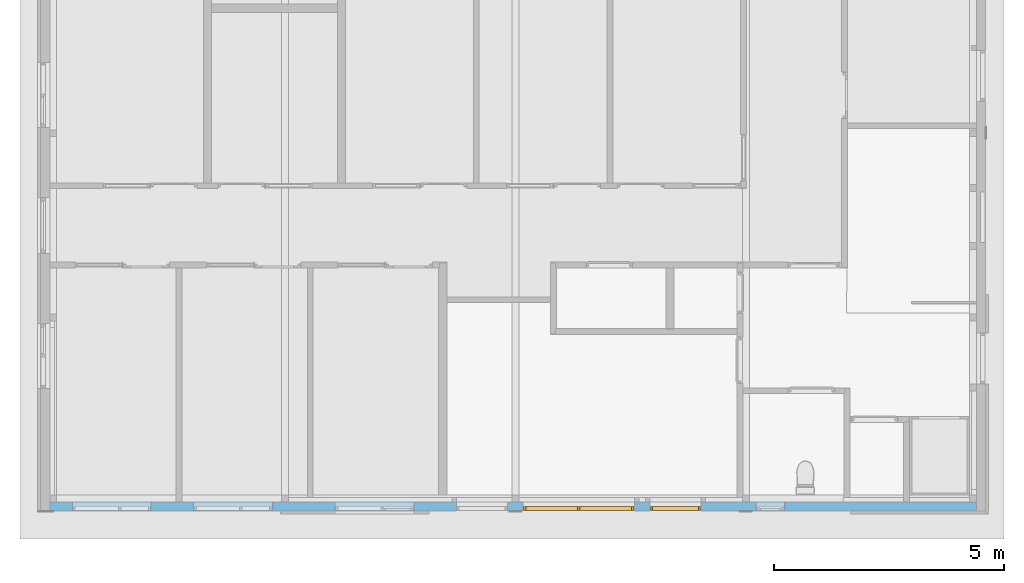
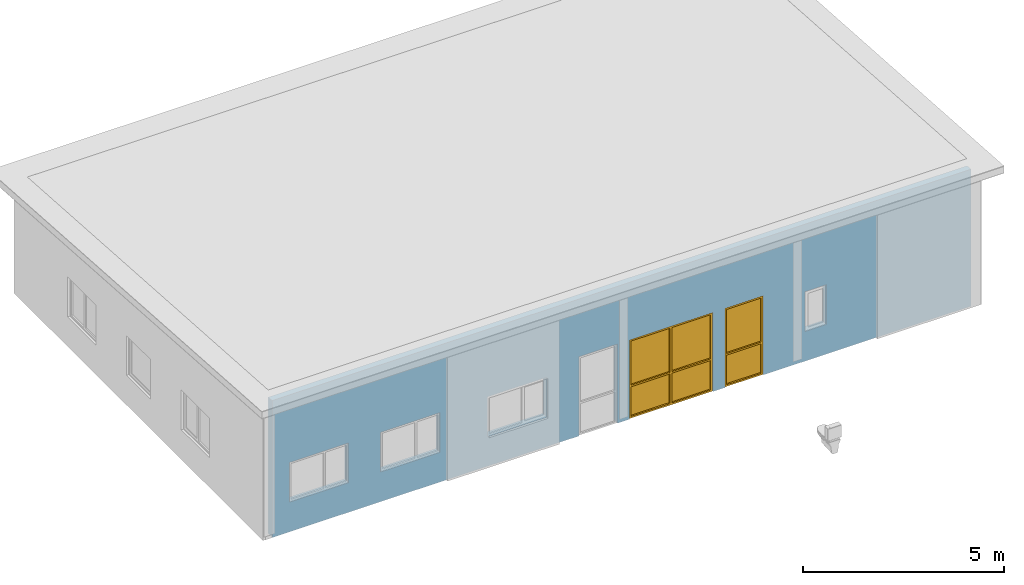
# One storey, part 13 of 37: 2 windows, 7 openings, plus 1 element that does not belong to this part.
"""IFC2X3 building model written with IfcOpenShell, lengths in millimetres."""

from ifc_helpers import new_model, entity, si_unit, converted_unit, frame, frame_2d, origin, origin_with_axes, place, context, subcontext, project, spatial, rectangle, extrude, clip, halfspace, faceted_brep, material, layer, layer_set, layer_usage, type_object, element, fill, save


model = new_model("IFC2X3")

# Units and contexts
model_context = context("Model", 3, precision=1e-05, world=origin())
plan_context = context("Plan", 3, precision=1e-05, world=origin())
body_context = subcontext(model_context, "Body", "Model", "MODEL_VIEW")
ifc_project = project(units=[si_unit("LENGTHUNIT", "METRE", prefix="MILLI"), converted_unit("PLANEANGLEUNIT", "DEGREE", entity("IfcPlaneAngleMeasure", 0.0174532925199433), si_unit("PLANEANGLEUNIT", "RADIAN"), dimensions=[0, 0, 0, 0, 0, 0, 0]), si_unit("AREAUNIT", "SQUARE_METRE"), si_unit("VOLUMEUNIT", "CUBIC_METRE")], contexts=[model_context, plan_context])

# Building, storey
building_placement = place(None, origin())
building = spatial("IfcBuilding", under=ifc_project, at=building_placement, Name="HEKF Administrasjonbygg", CompositionType="ELEMENT")
storey_placement = place(building_placement, frame((0.0, 0.0, 9900.0), z_axis=(0.0, 0.0, 1.0), x_axis=(1.0, 0.0, 0.0)))
storey = spatial("IfcBuildingStorey", under=building, at=storey_placement, Name="Plan 2", CompositionType="ELEMENT", Elevation=9900.0)

# Wall, openings, windows
ifc_material_1 = material(Name="Paroc 200")
ifc_layer = layer(ifc_material_1, 200.0)
ifc_layer_set = layer_set([ifc_layer])
ifc_layer_usage = layer_usage(ifc_layer_set, "AXIS2", "POSITIVE", 0.0)
wall_placement = place(storey_placement, frame((30000.0, -12000.0, 0.0), z_axis=(0.0, 0.0, 1.0), x_axis=(-1.0, 9.049698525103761e-17, 0.0)))
wall = element("IfcWallStandardCase", 1, at=wall_placement, inside=storey, material=ifc_layer_usage, context=body_context, shape_type="Clipping", body=[
    clip(extrude(rectangle(XDim=20100.00000000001, YDim=200.0, at=frame_2d((10050.0, 100.0), x_axis=(1.0, 0.0))), origin_with_axes(), (0.0, 0.0, 1.0), 4163.33333333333), halfspace(frame((0.0, 0.0, 4149.999999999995), z_axis=(9.405890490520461e-21, 0.06651901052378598, -0.9977851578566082), x_axis=(1.0, 0.0, 0.0)), True)),
])
opening_1_placement = place(wall_placement, frame((4165.0, 0.0, 900.0), z_axis=(0.0, 1.0, 0.0), x_axis=(0.0, 0.0, 1.0)))
element("IfcOpeningElement", 2, at=opening_1_placement, cuts=wall, Name="Window opening", ObjectType="Opening", context=body_context, shape_type="SweptSolid", body=[
    extrude(rectangle(XDim=1210.0, YDim=610.0, at=frame_2d((605.0, 305.0), x_axis=(1.0, 0.0))), origin_with_axes(), (0.0, 0.0, 1.0), 200.0),
])
opening_2_placement = place(wall_placement, frame((7420.0, 0.0, 0.0), z_axis=(0.0, 1.0, 0.0), x_axis=(0.0, 0.0, 1.0)))
opening_2 = element("IfcOpeningElement", 3, at=opening_2_placement, cuts=wall, Name="Window opening", ObjectType="Opening", context=body_context, shape_type="SweptSolid", body=[
    extrude(rectangle(XDim=2410.0, YDim=2410.0, at=frame_2d((1205.0, 1205.0), x_axis=(1.0, 0.0))), origin_with_axes(), (0.0, 0.0, 1.0), 200.0),
])
opening_3_placement = place(wall_placement, frame((5970.0, 0.0, 0.0), z_axis=(0.0, 1.0, 0.0), x_axis=(0.0, 0.0, 1.0)))
opening_3 = element("IfcOpeningElement", 4, at=opening_3_placement, cuts=wall, Name="Window opening", ObjectType="Opening", context=body_context, shape_type="SweptSolid", body=[
    extrude(rectangle(XDim=2410.0, YDim=1110.0, at=frame_2d((1205.0, 555.0), x_axis=(1.0, 0.0))), origin_with_axes(), (0.0, 0.0, 1.0), 200.0),
])
opening_4_placement = place(wall_placement, frame((10170.0, -1.818989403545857e-12, 0.0), z_axis=(0.0, 1.0, 0.0), x_axis=(0.0, 0.0, 1.0)))
element("IfcOpeningElement", 5, at=opening_4_placement, cuts=wall, Name="Window opening", ObjectType="Opening", context=body_context, shape_type="SweptSolid", body=[
    extrude(rectangle(XDim=2410.0, YDim=1110.0, at=frame_2d((1205.0, 555.0), x_axis=(1.0, 0.0))), origin_with_axes(), (0.0, 0.0, 1.0), 200.0),
])
opening_5_placement = place(wall_placement, frame((12200.0, -1.818989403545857e-12, 900.0), z_axis=(0.0, 1.0, 0.0), x_axis=(0.0, 0.0, 1.0)))
element("IfcOpeningElement", 6, at=opening_5_placement, cuts=wall, Name="Window opening", ObjectType="Opening", context=body_context, shape_type="SweptSolid", body=[
    extrude(rectangle(XDim=1210.0, YDim=1709.999999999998, at=frame_2d((605.0, 854.9999999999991), x_axis=(1.0, 0.0))), origin_with_axes(), (0.0, 0.0, 1.0), 200.0),
])
opening_6_placement = place(wall_placement, frame((15270.0, -1.818989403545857e-12, 900.0), z_axis=(0.0, 1.0, 0.0), x_axis=(0.0, 0.0, 1.0)))
element("IfcOpeningElement", 7, at=opening_6_placement, cuts=wall, Name="Window opening", ObjectType="Opening", context=body_context, shape_type="SweptSolid", body=[
    extrude(rectangle(XDim=1210.0, YDim=1710.0, at=frame_2d((605.0, 855.0), x_axis=(1.0, 0.0))), origin_with_axes(), (0.0, 0.0, 1.0), 200.0),
])
opening_7_placement = place(wall_placement, frame((17900.0, -1.818989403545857e-12, 900.0), z_axis=(0.0, 1.0, 0.0), x_axis=(0.0, 0.0, 1.0)))
element("IfcOpeningElement", 8, at=opening_7_placement, cuts=wall, Name="Window opening", ObjectType="Opening", context=body_context, shape_type="SweptSolid", body=[
    extrude(rectangle(XDim=1210.0, YDim=1710.0, at=frame_2d((605.0, 855.0), x_axis=(1.0, 0.0))), origin_with_axes(), (0.0, 0.0, 1.0), 200.0),
])
ifc_material_2 = material()
window_style_1 = type_object("IfcWindowStyle", Name="V205", ConstructionType="NOTDEFINED", OperationType="USERDEFINED", ParameterTakesPrecedence=False, Sizeable=False)
window_1_placement = place(opening_2_placement, frame((0.0, 0.0, 0.0), z_axis=(1.0, 0.0, 0.0), x_axis=(0.0, 1.0, 0.0)))
window_1 = element("IfcWindow", 9, at=window_1_placement, inside=storey, type_object=window_style_1, material=ifc_material_2, Name="V205", OverallHeight=2410.0, OverallWidth=2410.0, context=body_context, shape_type="Brep", body=[
    faceted_brep([(10.00000000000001, 93.99999999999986, 2400.000000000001), (60.00000000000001, 93.99999999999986, 2400.000000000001), (60.00000000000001, 94.0, 9.999999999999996), (10.00000000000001, 94.0, 9.999999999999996), (10.0, 186.0, 10.0), (60.0, 186.0, 10.0), (60.0, 185.9999999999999, 2400.000000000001), (10.0, 185.9999999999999, 2400.000000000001), (10.00000000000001, 94.0, 9.999999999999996), (10.0, 186.0, 10.0), (10.0, 185.9999999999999, 2400.000000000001), (10.00000000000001, 93.99999999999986, 2400.000000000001), (60.00000000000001, 94.0, 9.999999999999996), (60.0, 186.0, 10.0), (10.0, 186.0, 10.0), (10.00000000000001, 94.0, 9.999999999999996), (60.00000000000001, 93.99999999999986, 2400.000000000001), (60.0, 185.9999999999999, 2400.000000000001), (60.0, 186.0, 10.0), (60.00000000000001, 94.0, 9.999999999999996), (10.00000000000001, 93.99999999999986, 2400.000000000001), (10.0, 185.9999999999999, 2400.000000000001), (60.0, 185.9999999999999, 2400.000000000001), (60.00000000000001, 93.99999999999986, 2400.000000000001)], [[[0, 1, 2, 3]], [[4, 5, 6, 7]], [[8, 9, 10, 11]], [[12, 13, 14, 15]], [[16, 17, 18, 19]], [[20, 21, 22, 23]]], orient=[[False], [False], [False], [False], [False], [False]]),
    faceted_brep([(2350.000000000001, 94.00000000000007, 2400.000000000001), (2400.000000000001, 94.00000000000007, 2400.000000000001), (2400.000000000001, 94.00000000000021, 9.999999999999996), (2350.000000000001, 94.00000000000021, 9.999999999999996), (2350.000000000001, 186.0000000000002, 10.0), (2400.000000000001, 186.0000000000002, 10.0), (2400.000000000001, 186.0000000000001, 2400.000000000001), (2350.000000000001, 186.0000000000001, 2400.000000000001), (2350.000000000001, 94.00000000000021, 9.999999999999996), (2350.000000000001, 186.0000000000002, 10.0), (2350.000000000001, 186.0000000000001, 2400.000000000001), (2350.000000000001, 94.00000000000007, 2400.000000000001), (2400.000000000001, 94.00000000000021, 9.999999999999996), (2400.000000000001, 186.0000000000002, 10.0), (2350.000000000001, 186.0000000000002, 10.0), (2350.000000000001, 94.00000000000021, 9.999999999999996), (2400.000000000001, 94.00000000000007, 2400.000000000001), (2400.000000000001, 186.0000000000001, 2400.000000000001), (2400.000000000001, 186.0000000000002, 10.0), (2400.000000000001, 94.00000000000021, 9.999999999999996), (2350.000000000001, 94.00000000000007, 2400.000000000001), (2350.000000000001, 186.0000000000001, 2400.000000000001), (2400.000000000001, 186.0000000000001, 2400.000000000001), (2400.000000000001, 94.00000000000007, 2400.000000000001)], [[[0, 1, 2, 3]], [[4, 5, 6, 7]], [[8, 9, 10, 11]], [[12, 13, 14, 15]], [[16, 17, 18, 19]], [[20, 21, 22, 23]]], orient=[[False], [False], [False], [False], [False], [False]]),
    faceted_brep([(60.00000000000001, 94.0, 60.0), (2350.000000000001, 94.00000000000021, 60.0), (2350.000000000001, 94.00000000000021, 9.999999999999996), (60.00000000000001, 94.0, 9.999999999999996), (60.0, 186.0, 10.0), (2350.000000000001, 186.0000000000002, 10.0), (2350.000000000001, 186.0000000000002, 60.0), (60.0, 186.0, 60.0), (60.00000000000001, 94.0, 9.999999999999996), (60.0, 186.0, 10.0), (60.0, 186.0, 60.0), (60.00000000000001, 94.0, 60.0), (2350.000000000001, 94.00000000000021, 9.999999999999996), (2350.000000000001, 186.0000000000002, 10.0), (60.0, 186.0, 10.0), (60.00000000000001, 94.0, 9.999999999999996), (2350.000000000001, 94.00000000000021, 60.0), (2350.000000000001, 186.0000000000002, 60.0), (2350.000000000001, 186.0000000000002, 10.0), (2350.000000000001, 94.00000000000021, 9.999999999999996), (60.00000000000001, 94.0, 60.0), (60.0, 186.0, 60.0), (2350.000000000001, 186.0000000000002, 60.0), (2350.000000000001, 94.00000000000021, 60.0)], [[[0, 1, 2, 3]], [[4, 5, 6, 7]], [[8, 9, 10, 11]], [[12, 13, 14, 15]], [[16, 17, 18, 19]], [[20, 21, 22, 23]]], orient=[[False], [False], [False], [False], [False], [False]]),
    faceted_brep([(60.00000000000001, 93.99999999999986, 2400.000000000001), (2350.000000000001, 94.00000000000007, 2400.000000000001), (2350.000000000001, 94.00000000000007, 2350.000000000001), (60.00000000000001, 93.99999999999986, 2350.000000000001), (60.0, 185.9999999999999, 2350.000000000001), (2350.000000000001, 186.0000000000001, 2350.000000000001), (2350.000000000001, 186.0000000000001, 2400.000000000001), (60.0, 185.9999999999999, 2400.000000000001), (60.00000000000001, 93.99999999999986, 2350.000000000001), (60.0, 185.9999999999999, 2350.000000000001), (60.0, 185.9999999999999, 2400.000000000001), (60.00000000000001, 93.99999999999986, 2400.000000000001), (2350.000000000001, 94.00000000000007, 2350.000000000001), (2350.000000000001, 186.0000000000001, 2350.000000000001), (60.0, 185.9999999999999, 2350.000000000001), (60.00000000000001, 93.99999999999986, 2350.000000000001), (2350.000000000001, 94.00000000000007, 2400.000000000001), (2350.000000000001, 186.0000000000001, 2400.000000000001), (2350.000000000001, 186.0000000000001, 2350.000000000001), (2350.000000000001, 94.00000000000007, 2350.000000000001), (60.00000000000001, 93.99999999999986, 2400.000000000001), (60.0, 185.9999999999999, 2400.000000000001), (2350.000000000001, 186.0000000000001, 2400.000000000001), (2350.000000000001, 94.00000000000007, 2400.000000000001)], [[[0, 1, 2, 3]], [[4, 5, 6, 7]], [[8, 9, 10, 11]], [[12, 13, 14, 15]], [[16, 17, 18, 19]], [[20, 21, 22, 23]]], orient=[[False], [False], [False], [False], [False], [False]]),
    faceted_brep([(60.00000000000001, 93.99999999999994, 1010.0), (2350.000000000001, 94.00000000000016, 1010.0), (2350.000000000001, 94.00000000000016, 960.0), (60.00000000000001, 93.99999999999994, 960.0), (60.00000000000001, 185.9999999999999, 960.0), (2350.000000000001, 186.0000000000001, 960.0), (2350.000000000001, 186.0000000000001, 1010.0), (60.00000000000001, 185.9999999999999, 1010.0), (60.00000000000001, 93.99999999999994, 960.0), (60.00000000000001, 185.9999999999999, 960.0), (60.00000000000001, 185.9999999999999, 1010.0), (60.00000000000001, 93.99999999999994, 1010.0), (2350.000000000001, 94.00000000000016, 960.0), (2350.000000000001, 186.0000000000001, 960.0), (60.00000000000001, 185.9999999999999, 960.0), (60.00000000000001, 93.99999999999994, 960.0), (2350.000000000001, 94.00000000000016, 1010.0), (2350.000000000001, 186.0000000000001, 1010.0), (2350.000000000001, 186.0000000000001, 960.0), (2350.000000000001, 94.00000000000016, 960.0), (60.00000000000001, 93.99999999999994, 1010.0), (60.00000000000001, 185.9999999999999, 1010.0), (2350.000000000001, 186.0000000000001, 1010.0), (2350.000000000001, 94.00000000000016, 1010.0)], [[[0, 1, 2, 3]], [[4, 5, 6, 7]], [[8, 9, 10, 11]], [[12, 13, 14, 15]], [[16, 17, 18, 19]], [[20, 21, 22, 23]]], orient=[[False], [False], [False], [False], [False], [False]]),
    faceted_brep([(1180.000000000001, 94.00000000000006, 960.0), (1230.000000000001, 94.00000000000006, 960.0), (1230.000000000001, 94.00000000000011, 60.00000000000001), (1180.000000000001, 94.00000000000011, 60.00000000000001), (1180.000000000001, 186.0000000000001, 60.00000000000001), (1230.000000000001, 186.0000000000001, 60.00000000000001), (1230.000000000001, 186.0000000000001, 960.0), (1180.000000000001, 186.0000000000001, 960.0), (1180.000000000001, 94.00000000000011, 60.00000000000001), (1180.000000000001, 186.0000000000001, 60.00000000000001), (1180.000000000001, 186.0000000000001, 960.0), (1180.000000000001, 94.00000000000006, 960.0), (1230.000000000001, 94.00000000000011, 60.00000000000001), (1230.000000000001, 186.0000000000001, 60.00000000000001), (1180.000000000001, 186.0000000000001, 60.00000000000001), (1180.000000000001, 94.00000000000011, 60.00000000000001), (1230.000000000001, 94.00000000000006, 960.0), (1230.000000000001, 186.0000000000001, 960.0), (1230.000000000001, 186.0000000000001, 60.00000000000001), (1230.000000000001, 94.00000000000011, 60.00000000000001), (1180.000000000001, 94.00000000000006, 960.0), (1180.000000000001, 186.0000000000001, 960.0), (1230.000000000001, 186.0000000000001, 960.0), (1230.000000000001, 94.00000000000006, 960.0)], [[[0, 1, 2, 3]], [[4, 5, 6, 7]], [[8, 9, 10, 11]], [[12, 13, 14, 15]], [[16, 17, 18, 19]], [[20, 21, 22, 23]]], orient=[[False], [False], [False], [False], [False], [False]]),
    faceted_brep([(1180.000000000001, 93.99999999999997, 2350.000000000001), (1230.000000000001, 93.99999999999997, 2350.000000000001), (1230.000000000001, 94.00000000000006, 1010.0), (1180.000000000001, 94.00000000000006, 1010.0), (1180.000000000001, 186.0000000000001, 1010.0), (1230.000000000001, 186.0000000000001, 1010.0), (1230.000000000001, 186.0, 2350.000000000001), (1180.000000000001, 186.0, 2350.000000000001), (1180.000000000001, 94.00000000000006, 1010.0), (1180.000000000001, 186.0000000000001, 1010.0), (1180.000000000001, 186.0, 2350.000000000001), (1180.000000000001, 93.99999999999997, 2350.000000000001), (1230.000000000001, 94.00000000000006, 1010.0), (1230.000000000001, 186.0000000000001, 1010.0), (1180.000000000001, 186.0000000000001, 1010.0), (1180.000000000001, 94.00000000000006, 1010.0), (1230.000000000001, 93.99999999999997, 2350.000000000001), (1230.000000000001, 186.0, 2350.000000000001), (1230.000000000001, 186.0000000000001, 1010.0), (1230.000000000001, 94.00000000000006, 1010.0), (1180.000000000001, 93.99999999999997, 2350.000000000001), (1180.000000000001, 186.0, 2350.000000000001), (1230.000000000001, 186.0, 2350.000000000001), (1230.000000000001, 93.99999999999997, 2350.000000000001)], [[[0, 1, 2, 3]], [[4, 5, 6, 7]], [[8, 9, 10, 11]], [[12, 13, 14, 15]], [[16, 17, 18, 19]], [[20, 21, 22, 23]]], orient=[[False], [False], [False], [False], [False], [False]]),
    faceted_brep([(60.00000000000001, 140.0, 60.00000000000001), (60.00000000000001, 139.9999999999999, 960.0), (1180.000000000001, 140.0000000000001, 960.0), (1180.000000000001, 140.0000000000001, 60.00000000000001), (60.00000000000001, 141.0, 60.00000000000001), (1180.000000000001, 141.0000000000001, 60.00000000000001), (1180.000000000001, 141.0000000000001, 960.0), (60.00000000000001, 140.9999999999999, 960.0), (60.00000000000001, 140.0, 60.00000000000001), (60.00000000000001, 141.0, 60.00000000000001), (60.00000000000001, 140.9999999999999, 960.0), (60.00000000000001, 139.9999999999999, 960.0), (60.00000000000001, 139.9999999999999, 960.0), (60.00000000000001, 140.9999999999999, 960.0), (1180.000000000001, 141.0000000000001, 960.0), (1180.000000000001, 140.0000000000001, 960.0), (1180.000000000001, 140.0000000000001, 960.0), (1180.000000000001, 141.0000000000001, 960.0), (1180.000000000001, 141.0000000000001, 60.00000000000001), (1180.000000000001, 140.0000000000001, 60.00000000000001), (1180.000000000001, 140.0000000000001, 60.00000000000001), (1180.000000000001, 141.0000000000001, 60.00000000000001), (60.00000000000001, 141.0, 60.00000000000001), (60.00000000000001, 140.0, 60.00000000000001)], [[[0, 1, 2, 3]], [[4, 5, 6, 7]], [[8, 9, 10, 11]], [[12, 13, 14, 15]], [[16, 17, 18, 19]], [[20, 21, 22, 23]]], orient=[[False], [False], [False], [False], [False], [False]]),
    faceted_brep([(1230.000000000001, 140.0000000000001, 60.00000000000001), (1230.000000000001, 140.0000000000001, 960.0), (2350.000000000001, 140.0000000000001, 960.0), (2350.000000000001, 140.0000000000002, 60.00000000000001), (1230.000000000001, 141.0000000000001, 60.00000000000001), (2350.000000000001, 141.0000000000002, 60.00000000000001), (2350.000000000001, 141.0000000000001, 960.0), (1230.000000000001, 141.0000000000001, 960.0), (1230.000000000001, 140.0000000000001, 60.00000000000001), (1230.000000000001, 141.0000000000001, 60.00000000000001), (1230.000000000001, 141.0000000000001, 960.0), (1230.000000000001, 140.0000000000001, 960.0), (1230.000000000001, 140.0000000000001, 960.0), (1230.000000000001, 141.0000000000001, 960.0), (2350.000000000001, 141.0000000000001, 960.0), (2350.000000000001, 140.0000000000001, 960.0), (2350.000000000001, 140.0000000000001, 960.0), (2350.000000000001, 141.0000000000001, 960.0), (2350.000000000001, 141.0000000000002, 60.00000000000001), (2350.000000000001, 140.0000000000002, 60.00000000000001), (2350.000000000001, 140.0000000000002, 60.00000000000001), (2350.000000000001, 141.0000000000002, 60.00000000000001), (1230.000000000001, 141.0000000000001, 60.00000000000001), (1230.000000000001, 140.0000000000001, 60.00000000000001)], [[[0, 1, 2, 3]], [[4, 5, 6, 7]], [[8, 9, 10, 11]], [[12, 13, 14, 15]], [[16, 17, 18, 19]], [[20, 21, 22, 23]]], orient=[[False], [False], [False], [False], [False], [False]]),
    faceted_brep([(60.00000000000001, 139.9999999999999, 1010.0), (60.00000000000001, 139.9999999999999, 2350.000000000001), (1180.000000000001, 139.9999999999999, 2350.000000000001), (1180.000000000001, 140.0000000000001, 1010.0), (60.00000000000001, 140.9999999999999, 1010.0), (1180.000000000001, 141.0000000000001, 1010.0), (1180.000000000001, 140.9999999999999, 2350.000000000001), (60.00000000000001, 140.9999999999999, 2350.000000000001), (60.00000000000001, 139.9999999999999, 1010.0), (60.00000000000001, 140.9999999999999, 1010.0), (60.00000000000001, 140.9999999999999, 2350.000000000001), (60.00000000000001, 139.9999999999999, 2350.000000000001), (60.00000000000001, 139.9999999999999, 2350.000000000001), (60.00000000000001, 140.9999999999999, 2350.000000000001), (1180.000000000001, 140.9999999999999, 2350.000000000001), (1180.000000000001, 139.9999999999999, 2350.000000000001), (1180.000000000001, 139.9999999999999, 2350.000000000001), (1180.000000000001, 140.9999999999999, 2350.000000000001), (1180.000000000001, 141.0000000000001, 1010.0), (1180.000000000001, 140.0000000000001, 1010.0), (1180.000000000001, 140.0000000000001, 1010.0), (1180.000000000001, 141.0000000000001, 1010.0), (60.00000000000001, 140.9999999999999, 1010.0), (60.00000000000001, 139.9999999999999, 1010.0)], [[[0, 1, 2, 3]], [[4, 5, 6, 7]], [[8, 9, 10, 11]], [[12, 13, 14, 15]], [[16, 17, 18, 19]], [[20, 21, 22, 23]]], orient=[[False], [False], [False], [False], [False], [False]]),
    faceted_brep([(1230.000000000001, 140.0000000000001, 1010.0), (1230.000000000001, 140.0, 2350.000000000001), (2350.000000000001, 140.0000000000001, 2350.000000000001), (2350.000000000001, 140.0000000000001, 1010.0), (1230.000000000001, 141.0000000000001, 1010.0), (2350.000000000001, 141.0000000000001, 1010.0), (2350.000000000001, 141.0000000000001, 2350.000000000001), (1230.000000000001, 141.0, 2350.000000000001), (1230.000000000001, 140.0000000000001, 1010.0), (1230.000000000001, 141.0000000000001, 1010.0), (1230.000000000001, 141.0, 2350.000000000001), (1230.000000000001, 140.0, 2350.000000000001), (1230.000000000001, 140.0, 2350.000000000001), (1230.000000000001, 141.0, 2350.000000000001), (2350.000000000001, 141.0000000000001, 2350.000000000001), (2350.000000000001, 140.0000000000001, 2350.000000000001), (2350.000000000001, 140.0000000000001, 2350.000000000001), (2350.000000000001, 141.0000000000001, 2350.000000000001), (2350.000000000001, 141.0000000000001, 1010.0), (2350.000000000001, 140.0000000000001, 1010.0), (2350.000000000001, 140.0000000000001, 1010.0), (2350.000000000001, 141.0000000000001, 1010.0), (1230.000000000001, 141.0000000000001, 1010.0), (1230.000000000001, 140.0000000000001, 1010.0)], [[[0, 1, 2, 3]], [[4, 5, 6, 7]], [[8, 9, 10, 11]], [[12, 13, 14, 15]], [[16, 17, 18, 19]], [[20, 21, 22, 23]]], orient=[[False], [False], [False], [False], [False], [False]]),
])
fill(opening_2, window_1)
ifc_material_3 = material()
window_style_2 = type_object("IfcWindowStyle", Name="V206", ConstructionType="NOTDEFINED", OperationType="USERDEFINED", ParameterTakesPrecedence=False, Sizeable=False)
window_2_placement = place(opening_3_placement, frame((0.0, 0.0, 0.0), z_axis=(1.0, 0.0, 0.0), x_axis=(0.0, 1.0, 0.0)))
window_2 = element("IfcWindow", 10, at=window_2_placement, inside=storey, type_object=window_style_2, material=ifc_material_3, Name="V206", OverallHeight=2410.0, OverallWidth=1110.0, context=body_context, shape_type="Brep", body=[
    faceted_brep([(1100.0, 93.99999999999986, 2400.000000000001), (1100.0, 94.0, 9.999999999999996), (1050.0, 94.0, 9.999999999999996), (1050.0, 93.99999999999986, 2400.000000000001), (1100.0, 186.0, 10.0), (1100.0, 185.9999999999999, 2400.000000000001), (1050.0, 185.9999999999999, 2400.000000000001), (1050.0, 186.0, 10.0), (1100.0, 94.0, 9.999999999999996), (1100.0, 93.99999999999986, 2400.000000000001), (1100.0, 185.9999999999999, 2400.000000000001), (1100.0, 186.0, 10.0), (1050.0, 94.0, 9.999999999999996), (1100.0, 94.0, 9.999999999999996), (1100.0, 186.0, 10.0), (1050.0, 186.0, 10.0), (1050.0, 93.99999999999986, 2400.000000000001), (1050.0, 94.0, 9.999999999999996), (1050.0, 186.0, 10.0), (1050.0, 185.9999999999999, 2400.000000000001), (1100.0, 93.99999999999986, 2400.000000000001), (1050.0, 93.99999999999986, 2400.000000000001), (1050.0, 185.9999999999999, 2400.000000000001), (1100.0, 185.9999999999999, 2400.000000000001)], [[[0, 1, 2, 3]], [[4, 5, 6, 7]], [[8, 9, 10, 11]], [[12, 13, 14, 15]], [[16, 17, 18, 19]], [[20, 21, 22, 23]]], orient=[[False], [False], [False], [False], [False], [False]]),
    faceted_brep([(60.0, 93.99999999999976, 2400.000000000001), (60.0, 93.9999999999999, 9.999999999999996), (10.0, 93.9999999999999, 9.999999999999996), (10.0, 93.99999999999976, 2400.000000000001), (60.0, 185.9999999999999, 10.0), (60.0, 185.9999999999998, 2400.000000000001), (10.0, 185.9999999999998, 2400.000000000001), (10.0, 185.9999999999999, 10.0), (60.0, 93.9999999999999, 9.999999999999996), (60.0, 93.99999999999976, 2400.000000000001), (60.0, 185.9999999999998, 2400.000000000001), (60.0, 185.9999999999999, 10.0), (10.0, 93.9999999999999, 9.999999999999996), (60.0, 93.9999999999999, 9.999999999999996), (60.0, 185.9999999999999, 10.0), (10.0, 185.9999999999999, 10.0), (10.0, 93.99999999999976, 2400.000000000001), (10.0, 93.9999999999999, 9.999999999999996), (10.0, 185.9999999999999, 10.0), (10.0, 185.9999999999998, 2400.000000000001), (60.0, 93.99999999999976, 2400.000000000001), (10.0, 93.99999999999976, 2400.000000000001), (10.0, 185.9999999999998, 2400.000000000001), (60.0, 185.9999999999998, 2400.000000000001)], [[[0, 1, 2, 3]], [[4, 5, 6, 7]], [[8, 9, 10, 11]], [[12, 13, 14, 15]], [[16, 17, 18, 19]], [[20, 21, 22, 23]]], orient=[[False], [False], [False], [False], [False], [False]]),
    faceted_brep([(1050.0, 94.0, 60.0), (1050.0, 94.0, 9.999999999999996), (60.0, 93.9999999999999, 9.999999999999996), (60.0, 93.9999999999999, 60.0), (1050.0, 186.0, 10.0), (1050.0, 186.0, 60.0), (60.0, 185.9999999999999, 60.0), (60.0, 185.9999999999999, 10.0), (1050.0, 94.0, 9.999999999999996), (1050.0, 94.0, 60.0), (1050.0, 186.0, 60.0), (1050.0, 186.0, 10.0), (60.0, 93.9999999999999, 9.999999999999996), (1050.0, 94.0, 9.999999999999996), (1050.0, 186.0, 10.0), (60.0, 185.9999999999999, 10.0), (60.0, 93.9999999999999, 60.0), (60.0, 93.9999999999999, 9.999999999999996), (60.0, 185.9999999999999, 10.0), (60.0, 185.9999999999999, 60.0), (1050.0, 94.0, 60.0), (60.0, 93.9999999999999, 60.0), (60.0, 185.9999999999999, 60.0), (1050.0, 186.0, 60.0)], [[[0, 1, 2, 3]], [[4, 5, 6, 7]], [[8, 9, 10, 11]], [[12, 13, 14, 15]], [[16, 17, 18, 19]], [[20, 21, 22, 23]]], orient=[[False], [False], [False], [False], [False], [False]]),
    faceted_brep([(1050.0, 93.99999999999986, 2400.000000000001), (1050.0, 93.99999999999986, 2350.000000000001), (60.0, 93.99999999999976, 2350.000000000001), (60.0, 93.99999999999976, 2400.000000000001), (1050.0, 185.9999999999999, 2350.000000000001), (1050.0, 185.9999999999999, 2400.000000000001), (60.0, 185.9999999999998, 2400.000000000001), (60.0, 185.9999999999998, 2350.000000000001), (1050.0, 93.99999999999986, 2350.000000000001), (1050.0, 93.99999999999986, 2400.000000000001), (1050.0, 185.9999999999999, 2400.000000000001), (1050.0, 185.9999999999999, 2350.000000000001), (60.0, 93.99999999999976, 2350.000000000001), (1050.0, 93.99999999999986, 2350.000000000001), (1050.0, 185.9999999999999, 2350.000000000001), (60.0, 185.9999999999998, 2350.000000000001), (60.0, 93.99999999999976, 2400.000000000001), (60.0, 93.99999999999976, 2350.000000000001), (60.0, 185.9999999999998, 2350.000000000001), (60.0, 185.9999999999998, 2400.000000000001), (1050.0, 93.99999999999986, 2400.000000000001), (60.0, 93.99999999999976, 2400.000000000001), (60.0, 185.9999999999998, 2400.000000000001), (1050.0, 185.9999999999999, 2400.000000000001)], [[[0, 1, 2, 3]], [[4, 5, 6, 7]], [[8, 9, 10, 11]], [[12, 13, 14, 15]], [[16, 17, 18, 19]], [[20, 21, 22, 23]]], orient=[[False], [False], [False], [False], [False], [False]]),
    faceted_brep([(1050.0, 93.99999999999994, 1010.0), (1050.0, 93.99999999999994, 960.0), (60.0, 93.99999999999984, 960.0), (60.0, 93.99999999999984, 1010.0), (1050.0, 185.9999999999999, 960.0), (1050.0, 185.9999999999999, 1010.0), (60.0, 185.9999999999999, 1010.0), (60.0, 185.9999999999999, 960.0), (1050.0, 93.99999999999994, 960.0), (1050.0, 93.99999999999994, 1010.0), (1050.0, 185.9999999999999, 1010.0), (1050.0, 185.9999999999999, 960.0), (60.0, 93.99999999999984, 960.0), (1050.0, 93.99999999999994, 960.0), (1050.0, 185.9999999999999, 960.0), (60.0, 185.9999999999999, 960.0), (60.0, 93.99999999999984, 1010.0), (60.0, 93.99999999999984, 960.0), (60.0, 185.9999999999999, 960.0), (60.0, 185.9999999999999, 1010.0), (1050.0, 93.99999999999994, 1010.0), (60.0, 93.99999999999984, 1010.0), (60.0, 185.9999999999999, 1010.0), (1050.0, 185.9999999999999, 1010.0)], [[[0, 1, 2, 3]], [[4, 5, 6, 7]], [[8, 9, 10, 11]], [[12, 13, 14, 15]], [[16, 17, 18, 19]], [[20, 21, 22, 23]]], orient=[[False], [False], [False], [False], [False], [False]]),
    faceted_brep([(1050.0, 140.0, 60.00000000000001), (60.0, 139.9999999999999, 60.00000000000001), (60.0, 139.9999999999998, 960.0), (1050.0, 139.9999999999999, 960.0), (1050.0, 141.0, 60.00000000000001), (1050.0, 140.9999999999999, 960.0), (60.0, 140.9999999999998, 960.0), (60.0, 140.9999999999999, 60.00000000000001), (1050.0, 140.0, 60.00000000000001), (1050.0, 141.0, 60.00000000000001), (60.0, 140.9999999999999, 60.00000000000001), (60.0, 139.9999999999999, 60.00000000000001), (60.0, 139.9999999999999, 60.00000000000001), (60.0, 140.9999999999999, 60.00000000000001), (60.0, 140.9999999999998, 960.0), (60.0, 139.9999999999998, 960.0), (60.0, 139.9999999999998, 960.0), (60.0, 140.9999999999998, 960.0), (1050.0, 140.9999999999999, 960.0), (1050.0, 139.9999999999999, 960.0), (1050.0, 139.9999999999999, 960.0), (1050.0, 140.9999999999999, 960.0), (1050.0, 141.0, 60.00000000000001), (1050.0, 140.0, 60.00000000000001)], [[[0, 1, 2, 3]], [[4, 5, 6, 7]], [[8, 9, 10, 11]], [[12, 13, 14, 15]], [[16, 17, 18, 19]], [[20, 21, 22, 23]]], orient=[[False], [False], [False], [False], [False], [False]]),
    faceted_brep([(1050.0, 139.9999999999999, 1010.0), (60.0, 139.9999999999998, 1010.0), (60.0, 139.9999999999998, 2350.000000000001), (1050.0, 139.9999999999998, 2350.000000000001), (1050.0, 140.9999999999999, 1010.0), (1050.0, 140.9999999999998, 2350.000000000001), (60.0, 140.9999999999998, 2350.000000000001), (60.0, 140.9999999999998, 1010.0), (1050.0, 139.9999999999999, 1010.0), (1050.0, 140.9999999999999, 1010.0), (60.0, 140.9999999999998, 1010.0), (60.0, 139.9999999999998, 1010.0), (60.0, 139.9999999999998, 1010.0), (60.0, 140.9999999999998, 1010.0), (60.0, 140.9999999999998, 2350.000000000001), (60.0, 139.9999999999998, 2350.000000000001), (60.0, 139.9999999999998, 2350.000000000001), (60.0, 140.9999999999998, 2350.000000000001), (1050.0, 140.9999999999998, 2350.000000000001), (1050.0, 139.9999999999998, 2350.000000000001), (1050.0, 139.9999999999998, 2350.000000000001), (1050.0, 140.9999999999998, 2350.000000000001), (1050.0, 140.9999999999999, 1010.0), (1050.0, 139.9999999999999, 1010.0)], [[[0, 1, 2, 3]], [[4, 5, 6, 7]], [[8, 9, 10, 11]], [[12, 13, 14, 15]], [[16, 17, 18, 19]], [[20, 21, 22, 23]]], orient=[[False], [False], [False], [False], [False], [False]]),
])
fill(opening_3, window_2)

save(model, "model.ifc")
